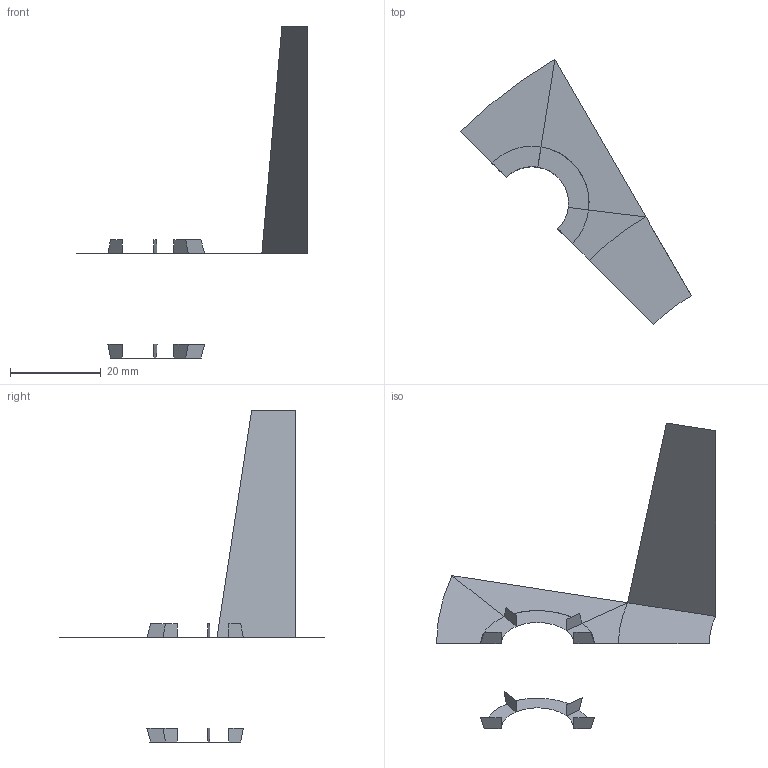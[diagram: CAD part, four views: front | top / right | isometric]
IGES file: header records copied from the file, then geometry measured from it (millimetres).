
Global section: file name: C:\mTemp\04 - MECWAY\11 - MAPPED MESH\model1.igs; native system: NX V9.0; preprocessor: SIEMENS PLM Software NX 9.0; date: 20160204.103916; units: millimetre
Bounding box: 50.71 x 58.32 x 73 mm (x, y, z)
Surface area: 2447.6 mm2 (no closed solid volume)
Topology: 0 solids, 0 shells, 27 faces, 122 edges, 122 vertices
Faces by surface type: bspline 27
